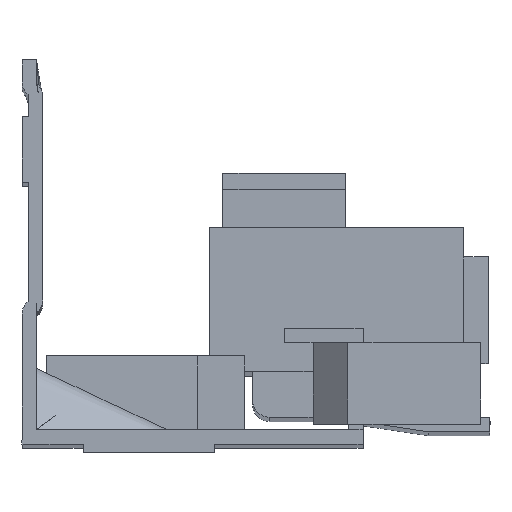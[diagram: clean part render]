
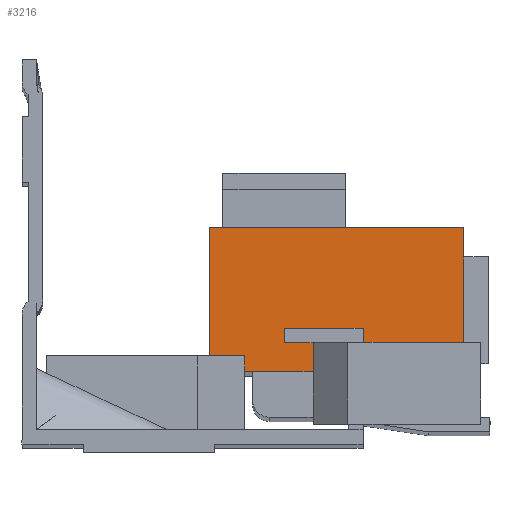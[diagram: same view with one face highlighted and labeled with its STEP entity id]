
A CAD part, front view. The second image highlights one B-rep face of the part: STEP entity #3216.
In plain terms, the highlighted planar face has unit normal (0, -1, 0).
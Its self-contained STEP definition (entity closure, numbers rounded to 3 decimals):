
#227 = EDGE_CURVE ( 'NONE', #3764, #3915, #1028, .T. ) ;
#427 = EDGE_LOOP ( 'NONE', ( #608, #607, #606, #605, #604, #603, #602, #601, #600, #599, #598, #597 ) ) ;
#597 = ORIENTED_EDGE ( 'NONE', *, *, #3737, .F. ) ;
#598 = ORIENTED_EDGE ( 'NONE', *, *, #3736, .F. ) ;
#599 = ORIENTED_EDGE ( 'NONE', *, *, #3751, .F. ) ;
#600 = ORIENTED_EDGE ( 'NONE', *, *, #227, .F. ) ;
#601 = ORIENTED_EDGE ( 'NONE', *, *, #5025, .F. ) ;
#602 = ORIENTED_EDGE ( 'NONE', *, *, #3189, .T. ) ;
#603 = ORIENTED_EDGE ( 'NONE', *, *, #4426, .T. ) ;
#604 = ORIENTED_EDGE ( 'NONE', *, *, #4434, .T. ) ;
#605 = ORIENTED_EDGE ( 'NONE', *, *, #4433, .T. ) ;
#606 = ORIENTED_EDGE ( 'NONE', *, *, #4432, .T. ) ;
#607 = ORIENTED_EDGE ( 'NONE', *, *, #4431, .F. ) ;
#608 = ORIENTED_EDGE ( 'NONE', *, *, #4430, .F. ) ;
#1028 = LINE ( 'NONE', #1946, #1029 ) ;
#1029 = VECTOR ( 'NONE', #1947, 1000. ) ;
#1271 = LINE ( 'NONE', #2274, #1272 ) ;
#1272 = VECTOR ( 'NONE', #2275, 1000. ) ;
#1336 = FACE_OUTER_BOUND ( 'NONE', #427, .T. ) ;
#1421 = LINE ( 'NONE', #4642, #1422 ) ;
#1422 = VECTOR ( 'NONE', #4643, 1000. ) ;
#1423 = LINE ( 'NONE', #4644, #1424 ) ;
#1424 = VECTOR ( 'NONE', #4645, 1000. ) ;
#1450 = LINE ( 'NONE', #4673, #1451 ) ;
#1451 = VECTOR ( 'NONE', #4674, 1000. ) ;
#1458 = LINE ( 'NONE', #4948, #1459 ) ;
#1459 = VECTOR ( 'NONE', #4949, 1000. ) ;
#1462 = LINE ( 'NONE', #4952, #1463 ) ;
#1463 = VECTOR ( 'NONE', #4953, 1000. ) ;
#1464 = LINE ( 'NONE', #4954, #1465 ) ;
#1465 = VECTOR ( 'NONE', #4955, 1000. ) ;
#1466 = LINE ( 'NONE', #4956, #1467 ) ;
#1467 = VECTOR ( 'NONE', #4957, 1000. ) ;
#1468 = LINE ( 'NONE', #4958, #1469 ) ;
#1469 = VECTOR ( 'NONE', #4959, 1000. ) ;
#1470 = LINE ( 'NONE', #4960, #1471 ) ;
#1471 = VECTOR ( 'NONE', #4961, 1000. ) ;
#1500 = LINE ( 'NONE', #4990, #1501 ) ;
#1501 = VECTOR ( 'NONE', #4991, 1000. ) ;
#1946 = CARTESIAN_POINT ( 'NONE',  ( 53.9, -20., -9.558 ) ) ;
#1947 = DIRECTION ( 'NONE',  ( 1., 0., 0. ) ) ;
#2274 = CARTESIAN_POINT ( 'NONE',  ( 49.9, -20., -23.558 ) ) ;
#2275 = DIRECTION ( 'NONE',  ( 1., 0., 0. ) ) ;
#2855 = PLANE ( 'NONE',  #3116 ) ;
#2856 = CARTESIAN_POINT ( 'NONE',  ( 49.9, -20., -27.058 ) ) ;
#2857 = DIRECTION ( 'NONE',  ( 0., 1., 0. ) ) ;
#2858 = DIRECTION ( 'NONE',  ( 1., 0., 0. ) ) ;
#3116 = AXIS2_PLACEMENT_3D ( 'NONE', #2856, #2857, #2858 ) ;
#3189 = EDGE_CURVE ( 'NONE', #3866, #3869, #1271, .T. ) ;
#3216 = ADVANCED_FACE ( 'NONE', ( #1336 ), #2855, .F. ) ;
#3736 = EDGE_CURVE ( 'NONE', #3982, #3868, #1421, .T. ) ;
#3737 = EDGE_CURVE ( 'NONE', #3855, #3982, #1423, .T. ) ;
#3751 = EDGE_CURVE ( 'NONE', #3868, #3764, #1450, .T. ) ;
#3764 = VERTEX_POINT ( 'NONE', #4675 ) ;
#3834 = VERTEX_POINT ( 'NONE', #4745 ) ;
#3855 = VERTEX_POINT ( 'NONE', #4766 ) ;
#3866 = VERTEX_POINT ( 'NONE', #4777 ) ;
#3868 = VERTEX_POINT ( 'NONE', #4779 ) ;
#3869 = VERTEX_POINT ( 'NONE', #4780 ) ;
#3901 = VERTEX_POINT ( 'NONE', #4812 ) ;
#3915 = VERTEX_POINT ( 'NONE', #4826 ) ;
#3982 = VERTEX_POINT ( 'NONE', #4893 ) ;
#3984 = VERTEX_POINT ( 'NONE', #4895 ) ;
#3989 = VERTEX_POINT ( 'NONE', #4900 ) ;
#3996 = VERTEX_POINT ( 'NONE', #4907 ) ;
#4426 = EDGE_CURVE ( 'NONE', #3834, #3866, #1458, .T. ) ;
#4430 = EDGE_CURVE ( 'NONE', #3901, #3855, #1462, .T. ) ;
#4431 = EDGE_CURVE ( 'NONE', #3996, #3901, #1464, .T. ) ;
#4432 = EDGE_CURVE ( 'NONE', #3996, #3984, #1466, .T. ) ;
#4433 = EDGE_CURVE ( 'NONE', #3984, #3989, #1468, .T. ) ;
#4434 = EDGE_CURVE ( 'NONE', #3989, #3834, #1470, .T. ) ;
#4642 = CARTESIAN_POINT ( 'NONE',  ( 49.9, -20., -25.181 ) ) ;
#4643 = DIRECTION ( 'NONE',  ( -1., 0., 0. ) ) ;
#4644 = CARTESIAN_POINT ( 'NONE',  ( 27.15, -20., -27.058 ) ) ;
#4645 = DIRECTION ( 'NONE',  ( 0., 0., 1. ) ) ;
#4673 = CARTESIAN_POINT ( 'NONE',  ( 22.9, -20., -27.058 ) ) ;
#4674 = DIRECTION ( 'NONE',  ( 0., 0., 1. ) ) ;
#4675 = CARTESIAN_POINT ( 'NONE',  ( 22.9, -20., -9.558 ) ) ;
#4745 = CARTESIAN_POINT ( 'NONE',  ( 41.6, -20., -21.858 ) ) ;
#4766 = CARTESIAN_POINT ( 'NONE',  ( 27.15, -20., -27.058 ) ) ;
#4777 = CARTESIAN_POINT ( 'NONE',  ( 41.6, -20., -23.558 ) ) ;
#4779 = CARTESIAN_POINT ( 'NONE',  ( 22.9, -20., -25.181 ) ) ;
#4780 = CARTESIAN_POINT ( 'NONE',  ( 53.9, -20., -23.558 ) ) ;
#4812 = CARTESIAN_POINT ( 'NONE',  ( 35.5, -20., -27.058 ) ) ;
#4826 = CARTESIAN_POINT ( 'NONE',  ( 53.9, -20., -9.558 ) ) ;
#4893 = CARTESIAN_POINT ( 'NONE',  ( 27.15, -20., -25.181 ) ) ;
#4895 = CARTESIAN_POINT ( 'NONE',  ( 32., -20., -23.608 ) ) ;
#4900 = CARTESIAN_POINT ( 'NONE',  ( 32., -20., -21.858 ) ) ;
#4907 = CARTESIAN_POINT ( 'NONE',  ( 35.5, -20., -23.608 ) ) ;
#4948 = CARTESIAN_POINT ( 'NONE',  ( 41.6, -20., -35.931 ) ) ;
#4949 = DIRECTION ( 'NONE',  ( 0., 0., -1. ) ) ;
#4952 = CARTESIAN_POINT ( 'NONE',  ( 49.9, -20., -27.058 ) ) ;
#4953 = DIRECTION ( 'NONE',  ( -1., 0., 0. ) ) ;
#4954 = CARTESIAN_POINT ( 'NONE',  ( 35.5, -20., -27.058 ) ) ;
#4955 = DIRECTION ( 'NONE',  ( 0., 0., -1. ) ) ;
#4956 = CARTESIAN_POINT ( 'NONE',  ( 32., -20., -23.608 ) ) ;
#4957 = DIRECTION ( 'NONE',  ( -1., 0., 0. ) ) ;
#4958 = CARTESIAN_POINT ( 'NONE',  ( 32., -20., -21.831 ) ) ;
#4959 = DIRECTION ( 'NONE',  ( 0., 0., 1. ) ) ;
#4960 = CARTESIAN_POINT ( 'NONE',  ( 41.6, -20., -21.858 ) ) ;
#4961 = DIRECTION ( 'NONE',  ( 1., 0., 0. ) ) ;
#4990 = CARTESIAN_POINT ( 'NONE',  ( 53.9, -20., -29.558 ) ) ;
#4991 = DIRECTION ( 'NONE',  ( 0., 0., -1. ) ) ;
#5025 = EDGE_CURVE ( 'NONE', #3915, #3869, #1500, .T. ) ;
